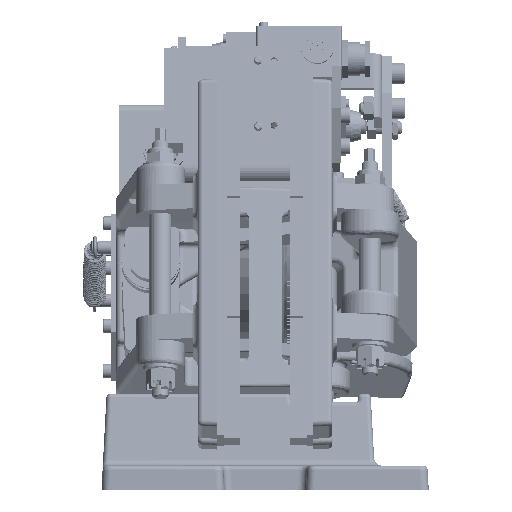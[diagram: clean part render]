
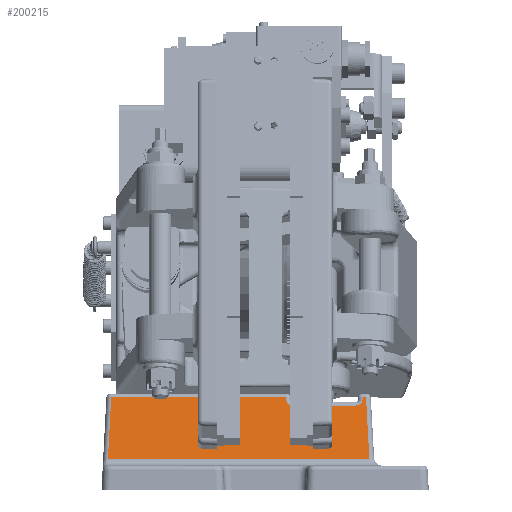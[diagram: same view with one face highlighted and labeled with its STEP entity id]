
A CAD part, left-side view. The second image highlights one B-rep face of the part: STEP entity #200215.
In plain terms, the highlighted planar face has unit normal (-0.974, 0, 0.225).
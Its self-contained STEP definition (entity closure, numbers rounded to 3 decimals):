
#47394=DIRECTION('',(0.,-1.,0.));
#47395=VECTOR('',#47394,161.16);
#47396=CARTESIAN_POINT('',(-78.202,73.407,
-10.826));
#47397=LINE('',#47396,#47395);
#47436=DIRECTION('',(-0.225,-0.052,-0.973));
#47437=VECTOR('',#47436,37.83);
#47438=CARTESIAN_POINT('',(-69.382,-85.575,
27.376));
#47439=LINE('',#47438,#47437);
#47443=CARTESIAN_POINT('',(-77.881,-87.554,
-9.434));
#47444=CARTESIAN_POINT('',(-77.989,-87.58,
-9.903));
#47445=CARTESIAN_POINT('',(-78.096,-87.646,
-10.369));
#47446=CARTESIAN_POINT('',(-78.202,-87.753,
-10.826));
#47451=DIRECTION('',(0.225,-0.051,0.973));
#47452=VECTOR('',#47451,39.258);
#47453=CARTESIAN_POINT('',(-78.202,73.407,
-10.826));
#47454=LINE('',#47453,#47452);
#47458=CARTESIAN_POINT('',(-69.643,-40.421,
26.246));
#47459=DIRECTION('',(-0.974,0.,0.225));
#47460=DIRECTION('',(0.,1.,0.));
#47461=AXIS2_PLACEMENT_3D('',#47458,#47459,#47460);
#47466=CARTESIAN_POINT('',(-69.643,-79.421,
26.246));
#47467=DIRECTION('',(-0.974,0.,0.225));
#47468=DIRECTION('',(-0.225,0.,-0.974));
#47469=AXIS2_PLACEMENT_3D('',#47466,#47467,#47468);
#48148=DIRECTION('',(0.,1.,0.));
#48149=VECTOR('',#48148,2.153);
#48150=CARTESIAN_POINT('',(-69.382,-85.575,
27.376));
#48151=LINE('',#48150,#48149);
#48222=DIRECTION('',(-0.225,0.,
-0.974));
#48223=VECTOR('',#48222,1.16);
#48224=CARTESIAN_POINT('',(-69.382,-83.421,
27.376));
#48225=LINE('',#48224,#48223);
#48268=DIRECTION('',(0.,1.,0.));
#48269=VECTOR('',#48268,39.);
#48270=CARTESIAN_POINT('',(-70.543,-79.421,
22.348));
#48271=LINE('',#48270,#48269);
#48307=DIRECTION('',(0.225,0.,0.974));
#48308=VECTOR('',#48307,1.16);
#48309=CARTESIAN_POINT('',(-69.643,-36.421,
26.246));
#48310=LINE('',#48309,#48308);
#48570=DIRECTION('',(0.,1.,0.));
#48571=VECTOR('',#48570,107.826);
#48572=CARTESIAN_POINT('',(-69.382,-36.421,
27.376));
#48573=LINE('',#48572,#48571);
#123603=CARTESIAN_POINT('',(-78.202,73.407,
-10.826));
#123604=CARTESIAN_POINT('',(-78.202,-87.753,
-10.826));
#123605=VERTEX_POINT('',#123603);
#123606=VERTEX_POINT('',#123604);
#123607=CARTESIAN_POINT('',(-69.382,-85.575,
27.376));
#123608=CARTESIAN_POINT('',(-77.881,-87.554,
-9.434));
#123609=VERTEX_POINT('',#123607);
#123610=VERTEX_POINT('',#123608);
#123611=CARTESIAN_POINT('',(-69.382,71.405,
27.376));
#123612=VERTEX_POINT('',#123611);
#123613=CARTESIAN_POINT('',(-69.382,-36.421,
27.376));
#123614=VERTEX_POINT('',#123613);
#123615=CARTESIAN_POINT('',(-69.643,-36.421,
26.246));
#123616=VERTEX_POINT('',#123615);
#123617=CARTESIAN_POINT('',(-70.543,-40.421,
22.348));
#123618=VERTEX_POINT('',#123617);
#123619=CARTESIAN_POINT('',(-70.543,-79.421,
22.348));
#123620=VERTEX_POINT('',#123619);
#123621=CARTESIAN_POINT('',(-69.643,-83.421,
26.246));
#123622=VERTEX_POINT('',#123621);
#123623=CARTESIAN_POINT('',(-69.382,-83.421,
27.376));
#123624=VERTEX_POINT('',#123623);
#200187=CARTESIAN_POINT('',(-79.097,138.739,
-14.701));
#200188=DIRECTION('',(0.974,0.,-0.225));
#200189=DIRECTION('',(-0.225,0.,-0.974));
#200190=AXIS2_PLACEMENT_3D('',#200187,#200188,#200189);
#200191=PLANE('',#200190);
#200193=ORIENTED_EDGE('',*,*,#200192,.T.);
#200195=ORIENTED_EDGE('',*,*,#200194,.T.);
#200196=ORIENTED_EDGE('',*,*,#200170,.F.);
#200198=ORIENTED_EDGE('',*,*,#200197,.T.);
#200200=ORIENTED_EDGE('',*,*,#200199,.F.);
#200202=ORIENTED_EDGE('',*,*,#200201,.F.);
#200204=ORIENTED_EDGE('',*,*,#200203,.T.);
#200206=ORIENTED_EDGE('',*,*,#200205,.F.);
#200208=ORIENTED_EDGE('',*,*,#200207,.T.);
#200210=ORIENTED_EDGE('',*,*,#200209,.F.);
#200212=ORIENTED_EDGE('',*,*,#200211,.F.);
#200213=EDGE_LOOP('',(#200193,#200195,#200196,#200198,#200200,#200202,#200204,
#200206,#200208,#200210,#200212));
#200214=FACE_OUTER_BOUND('',#200213,.F.);
#200215=ADVANCED_FACE('',(#200214),#200191,.F.);
#47447=B_SPLINE_CURVE_WITH_KNOTS('',3,(#47443,#47444,#47445,#47446),
.UNSPECIFIED.,.F.,.F.,(4,4),(0.,1.),.UNSPECIFIED.);
#47462=CIRCLE('',#47461,4.);
#47470=CIRCLE('',#47469,4.);
#200170=EDGE_CURVE('',#123605,#123606,#47397,.T.);
#200192=EDGE_CURVE('',#123609,#123610,#47439,.T.);
#200194=EDGE_CURVE('',#123610,#123606,#47447,.T.);
#200197=EDGE_CURVE('',#123605,#123612,#47454,.T.);
#200199=EDGE_CURVE('',#123614,#123612,#48573,.T.);
#200201=EDGE_CURVE('',#123616,#123614,#48310,.T.);
#200203=EDGE_CURVE('',#123616,#123618,#47462,.T.);
#200205=EDGE_CURVE('',#123620,#123618,#48271,.T.);
#200207=EDGE_CURVE('',#123620,#123622,#47470,.T.);
#200209=EDGE_CURVE('',#123624,#123622,#48225,.T.);
#200211=EDGE_CURVE('',#123609,#123624,#48151,.T.);
